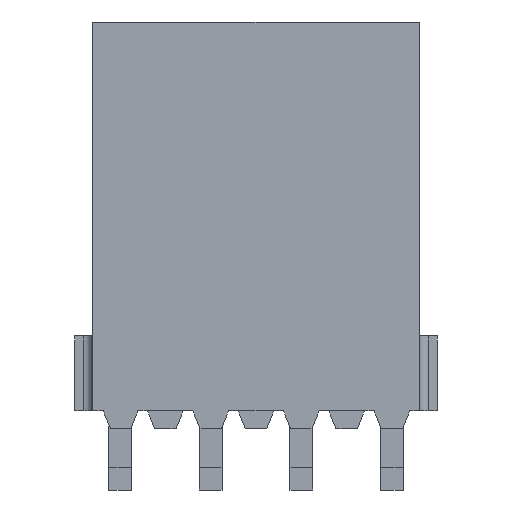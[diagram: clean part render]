
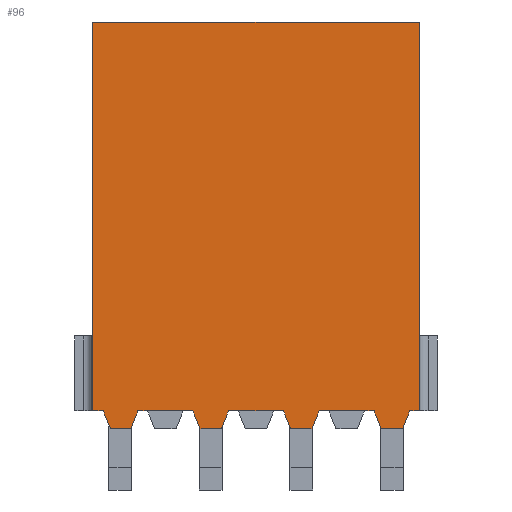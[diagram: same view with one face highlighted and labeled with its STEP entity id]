
A CAD part, front view. The second image highlights one B-rep face of the part: STEP entity #96.
In plain terms, the highlighted planar face has unit normal (0, -1, 0).
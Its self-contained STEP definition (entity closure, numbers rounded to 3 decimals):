
#96=ADVANCED_FACE('',(#365),#366,.T.);
#365=FACE_OUTER_BOUND('',#790,.T.);
#366=PLANE('',#791);
#790=EDGE_LOOP('',(#1646,#1647,#1648,#1649,#1650,#1651,#1652,#1653,#1654,#1655,#1656,#1657,#1658,#1659,#1660,#1661,#1662,#1663,#1664,#1665));
#791=AXIS2_PLACEMENT_3D('',#1666,#1667,#1668);
#1646=ORIENTED_EDGE('',*,*,#3129,.T.);
#1647=ORIENTED_EDGE('',*,*,#3130,.F.);
#1648=ORIENTED_EDGE('',*,*,#2930,.F.);
#1649=ORIENTED_EDGE('',*,*,#3131,.F.);
#1650=ORIENTED_EDGE('',*,*,#3132,.T.);
#1651=ORIENTED_EDGE('',*,*,#3133,.F.);
#1652=ORIENTED_EDGE('',*,*,#2926,.F.);
#1653=ORIENTED_EDGE('',*,*,#3134,.F.);
#1654=ORIENTED_EDGE('',*,*,#3135,.T.);
#1655=ORIENTED_EDGE('',*,*,#3136,.F.);
#1656=ORIENTED_EDGE('',*,*,#2922,.F.);
#1657=ORIENTED_EDGE('',*,*,#3128,.T.);
#1658=ORIENTED_EDGE('',*,*,#3137,.F.);
#1659=ORIENTED_EDGE('',*,*,#3138,.T.);
#1660=ORIENTED_EDGE('',*,*,#2894,.T.);
#1661=ORIENTED_EDGE('',*,*,#3139,.T.);
#1662=ORIENTED_EDGE('',*,*,#3140,.T.);
#1663=ORIENTED_EDGE('',*,*,#3141,.F.);
#1664=ORIENTED_EDGE('',*,*,#2934,.F.);
#1665=ORIENTED_EDGE('',*,*,#3142,.F.);
#1666=CARTESIAN_POINT('',(-5.08,-2.5,0.0));
#1667=DIRECTION('',(0.0,-1.0,0.0));
#1668=DIRECTION('',(0.0,0.0,-1.0));
#2894=EDGE_CURVE('',#3510,#3507,#3511,.T.);
#2922=EDGE_CURVE('',#3563,#3565,#3566,.T.);
#2926=EDGE_CURVE('',#3571,#3573,#3574,.T.);
#2930=EDGE_CURVE('',#3579,#3581,#3582,.T.);
#2934=EDGE_CURVE('',#3587,#3589,#3590,.T.);
#3128=EDGE_CURVE('',#3563,#3928,#3930,.T.);
#3129=EDGE_CURVE('',#3931,#3932,#3933,.T.);
#3130=EDGE_CURVE('',#3581,#3932,#3934,.T.);
#3131=EDGE_CURVE('',#3935,#3579,#3936,.T.);
#3132=EDGE_CURVE('',#3935,#3937,#3938,.T.);
#3133=EDGE_CURVE('',#3573,#3937,#3939,.T.);
#3134=EDGE_CURVE('',#3940,#3571,#3941,.T.);
#3135=EDGE_CURVE('',#3940,#3942,#3943,.T.);
#3136=EDGE_CURVE('',#3565,#3942,#3944,.T.);
#3137=EDGE_CURVE('',#3945,#3928,#3946,.T.);
#3138=EDGE_CURVE('',#3945,#3510,#3947,.T.);
#3139=EDGE_CURVE('',#3507,#3948,#3949,.T.);
#3140=EDGE_CURVE('',#3948,#3950,#3951,.T.);
#3141=EDGE_CURVE('',#3589,#3950,#3952,.T.);
#3142=EDGE_CURVE('',#3931,#3587,#3953,.T.);
#3507=VERTEX_POINT('',#4471);
#3510=VERTEX_POINT('',#4475);
#3511=LINE('',#4476,#4477);
#3563=VERTEX_POINT('',#4553);
#3565=VERTEX_POINT('',#4556);
#3566=LINE('',#4557,#4558);
#3571=VERTEX_POINT('',#4565);
#3573=VERTEX_POINT('',#4568);
#3574=LINE('',#4569,#4570);
#3579=VERTEX_POINT('',#4577);
#3581=VERTEX_POINT('',#4580);
#3582=LINE('',#4581,#4582);
#3587=VERTEX_POINT('',#4589);
#3589=VERTEX_POINT('',#4592);
#3590=LINE('',#4593,#4594);
#3928=VERTEX_POINT('',#5094);
#3930=LINE('',#5097,#5098);
#3931=VERTEX_POINT('',#5099);
#3932=VERTEX_POINT('',#5100);
#3933=LINE('',#5101,#5102);
#3934=LINE('',#5103,#5104);
#3935=VERTEX_POINT('',#5105);
#3936=LINE('',#5106,#5107);
#3937=VERTEX_POINT('',#5108);
#3938=LINE('',#5109,#5110);
#3939=LINE('',#5111,#5112);
#3940=VERTEX_POINT('',#5113);
#3941=LINE('',#5114,#5115);
#3942=VERTEX_POINT('',#5116);
#3943=LINE('',#5117,#5118);
#3944=LINE('',#5119,#5120);
#3945=VERTEX_POINT('',#5121);
#3946=LINE('',#5122,#5123);
#3947=LINE('',#5124,#5125);
#3948=VERTEX_POINT('',#5126);
#3949=LINE('',#5127,#5128);
#3950=VERTEX_POINT('',#5129);
#3951=LINE('',#5130,#5131);
#3952=LINE('',#5132,#5133);
#3953=LINE('',#5134,#5135);
#4471=CARTESIAN_POINT('',(-4.28,-2.5,-10.9));
#4475=CARTESIAN_POINT('',(-4.58,-2.5,-10.9));
#4476=CARTESIAN_POINT('',(-4.58,-2.5,-10.9));
#4477=VECTOR('',#5850,0.3);
#4553=CARTESIAN_POINT('',(4.58,-2.5,-10.9));
#4556=CARTESIAN_POINT('',(4.31,-2.5,-10.9));
#4557=CARTESIAN_POINT('',(4.58,-2.5,-10.9));
#4558=VECTOR('',#5882,0.27);
#4565=CARTESIAN_POINT('',(3.31,-2.5,-10.9));
#4568=CARTESIAN_POINT('',(1.77,-2.5,-10.9));
#4569=CARTESIAN_POINT('',(3.31,-2.5,-10.9));
#4570=VECTOR('',#5886,1.54);
#4577=CARTESIAN_POINT('',(0.77,-2.5,-10.9));
#4580=CARTESIAN_POINT('',(-0.77,-2.5,-10.9));
#4581=CARTESIAN_POINT('',(0.77,-2.5,-10.9));
#4582=VECTOR('',#5890,1.54);
#4589=CARTESIAN_POINT('',(-1.77,-2.5,-10.9));
#4592=CARTESIAN_POINT('',(-3.31,-2.5,-10.9));
#4593=CARTESIAN_POINT('',(-1.77,-2.5,-10.9));
#4594=VECTOR('',#5894,1.54);
#5094=CARTESIAN_POINT('',(4.58,-2.5,0.0));
#5097=CARTESIAN_POINT('',(4.58,-2.5,-10.9));
#5098=VECTOR('',#6148,10.9);
#5099=CARTESIAN_POINT('',(-1.57,-2.5,-11.4));
#5100=CARTESIAN_POINT('',(-0.97,-2.5,-11.4));
#5101=CARTESIAN_POINT('',(-1.57,-2.5,-11.4));
#5102=VECTOR('',#6149,0.6);
#5103=CARTESIAN_POINT('',(-0.77,-2.5,-10.9));
#5104=VECTOR('',#6150,0.539);
#5105=CARTESIAN_POINT('',(0.97,-2.5,-11.4));
#5106=CARTESIAN_POINT('',(0.97,-2.5,-11.4));
#5107=VECTOR('',#6151,0.539);
#5108=CARTESIAN_POINT('',(1.57,-2.5,-11.4));
#5109=CARTESIAN_POINT('',(0.97,-2.5,-11.4));
#5110=VECTOR('',#6152,0.6);
#5111=CARTESIAN_POINT('',(1.77,-2.5,-10.9));
#5112=VECTOR('',#6153,0.539);
#5113=CARTESIAN_POINT('',(3.51,-2.5,-11.4));
#5114=CARTESIAN_POINT('',(3.51,-2.5,-11.4));
#5115=VECTOR('',#6154,0.539);
#5116=CARTESIAN_POINT('',(4.11,-2.5,-11.4));
#5117=CARTESIAN_POINT('',(3.51,-2.5,-11.4));
#5118=VECTOR('',#6155,0.6);
#5119=CARTESIAN_POINT('',(4.31,-2.5,-10.9));
#5120=VECTOR('',#6156,0.539);
#5121=CARTESIAN_POINT('',(-4.58,-2.5,0.0));
#5122=CARTESIAN_POINT('',(-4.58,-2.5,0.0));
#5123=VECTOR('',#6157,9.16);
#5124=CARTESIAN_POINT('',(-4.58,-2.5,0.0));
#5125=VECTOR('',#6158,10.9);
#5126=CARTESIAN_POINT('',(-4.08,-2.5,-11.4));
#5127=CARTESIAN_POINT('',(-4.28,-2.5,-10.9));
#5128=VECTOR('',#6159,0.539);
#5129=CARTESIAN_POINT('',(-3.51,-2.5,-11.4));
#5130=CARTESIAN_POINT('',(-4.08,-2.5,-11.4));
#5131=VECTOR('',#6160,0.57);
#5132=CARTESIAN_POINT('',(-3.31,-2.5,-10.9));
#5133=VECTOR('',#6161,0.539);
#5134=CARTESIAN_POINT('',(-1.57,-2.5,-11.4));
#5135=VECTOR('',#6162,0.539);
#5850=DIRECTION('',(1.0,0.0,0.0));
#5882=DIRECTION('',(-1.0,0.0,0.0));
#5886=DIRECTION('',(-1.0,0.0,0.0));
#5890=DIRECTION('',(-1.0,0.0,0.0));
#5894=DIRECTION('',(-1.0,0.0,0.0));
#6148=DIRECTION('',(0.0,0.0,1.0));
#6149=DIRECTION('',(1.0,0.0,0.0));
#6150=DIRECTION('',(-0.371,0.0,-0.928));
#6151=DIRECTION('',(-0.371,0.0,0.928));
#6152=DIRECTION('',(1.0,0.0,0.0));
#6153=DIRECTION('',(-0.371,0.0,-0.928));
#6154=DIRECTION('',(-0.371,0.0,0.928));
#6155=DIRECTION('',(1.0,0.0,0.0));
#6156=DIRECTION('',(-0.371,0.0,-0.928));
#6157=DIRECTION('',(1.0,0.0,0.0));
#6158=DIRECTION('',(0.0,0.0,-1.0));
#6159=DIRECTION('',(0.371,0.0,-0.928));
#6160=DIRECTION('',(1.0,0.0,0.0));
#6161=DIRECTION('',(-0.371,0.0,-0.928));
#6162=DIRECTION('',(-0.371,0.0,0.928));
